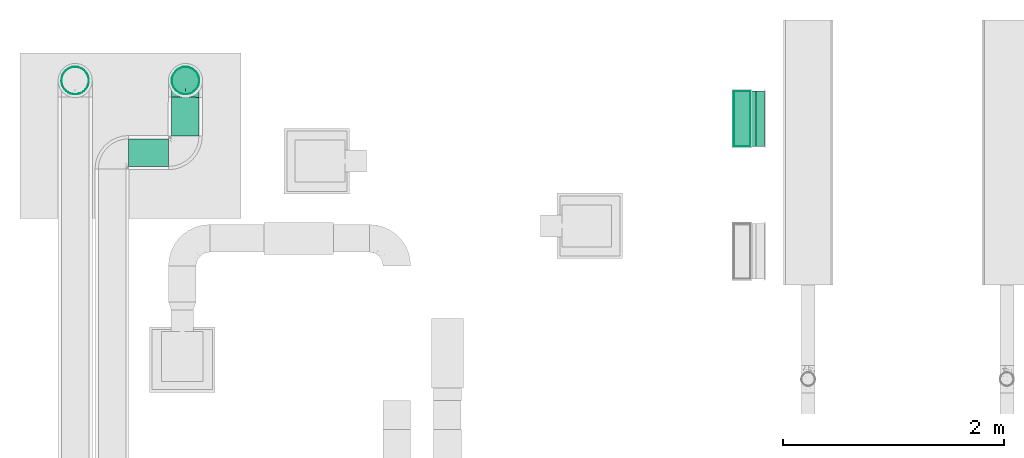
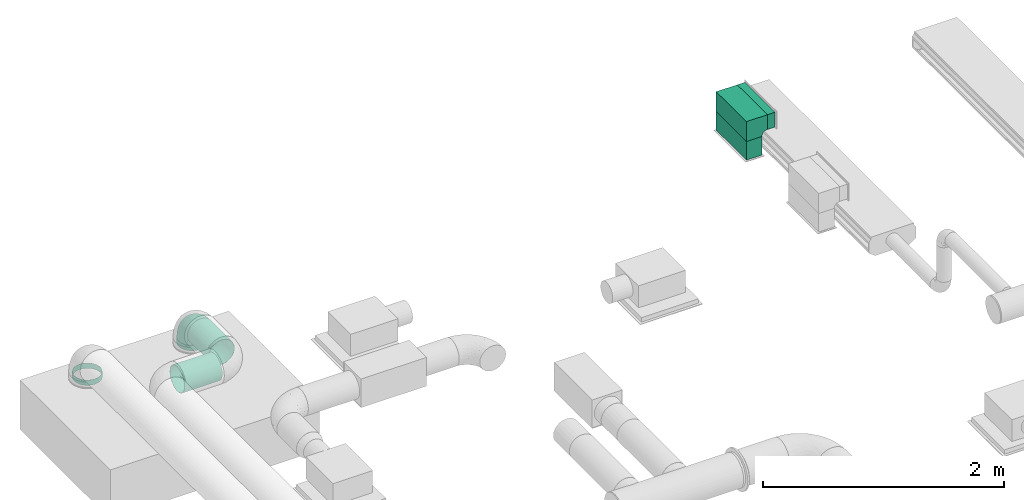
# One storey, part 24 of 36: 6 flow segments, 2 flow fittings.
"""IFC2X3 building model written with IfcOpenShell, lengths in millimetres."""

import ifcopenshell
import ifcopenshell.guid

model = None  # the IFC model being written
_history = None  # IfcOwnerHistory: only IFC2X3 demands one
_inside = {}  # id of a spatial element -> (the spatial element, [elements in it])
_under = {}  # id of a project, library or spatial element -> (it, [spatial elements below it])
_declared = {}  # id of a project -> (the project, [libraries it declares])
_typed = {}  # id of a type object -> (the type object, [elements of that type])
_made_of = {}  # id of a material, layer set ... -> (it, [elements and type objects made of it])


def new_model(schema):
    """Start an empty IFC model of exactly this schema.

    Asked for "IFC4X3", IfcOpenShell would pick the latest addendum, in which some entities
    have other attributes; the version numbers below select the first issue.
    IFC2X3 requires an IfcOwnerHistory on every rooted entity: one is made here for all.
    """
    global model, _history
    if schema == "IFC4X3":
        model = ifcopenshell.file(schema_version=(4, 3, 0, 0))
    else:
        model = ifcopenshell.file(schema=schema)
    _inside.clear()
    _under.clear()
    _declared.clear()
    _typed.clear()
    _made_of.clear()
    _history = None
    if model.schema == "IFC2X3":
        org = make("IfcOrganization", Name="unknown")
        user = make(
            "IfcPersonAndOrganization",
            ThePerson=make("IfcPerson", FamilyName="unknown"),
            TheOrganization=org,
        )
        app = make(
            "IfcApplication",
            ApplicationDeveloper=org,
            Version="unknown",
            ApplicationFullName="unknown",
            ApplicationIdentifier="unknown",
        )
        _history = make(
            "IfcOwnerHistory",
            OwningUser=user,
            OwningApplication=app,
            ChangeAction="ADDED",
            CreationDate=0,
        )
    return model


def make(cls, **values):
    """One entity of the class cls with the attributes given. An attribute that is None is left unset."""
    return model.create_entity(
        cls, **{name: value for name, value in values.items() if value is not None}
    )


def entity(cls, *values):
    """Any entity or typed value of the class cls, its attributes in the order of the schema. None: left unset."""
    e = model.create_entity(cls)
    for i, value in enumerate(values):
        if value is not None:
            e[i] = value
    return e


def rooted(cls, **values):
    """An entity with a GlobalId (a new one), such as an element, a storey or a relation."""
    return make(cls, GlobalId=ifcopenshell.guid.new(), OwnerHistory=_history, **values)


def si_unit(unit_type, name, prefix=None):
    """IfcSIUnit, for example si_unit("LENGTHUNIT", "METRE", prefix="MILLI")."""
    return make("IfcSIUnit", UnitType=unit_type, Prefix=prefix, Name=name)


def converted_unit(unit_type, name, factor, base, dimensions=None, offset=None):
    """IfcConversionBasedUnit, such as the inch: factor (a typed value) times the base unit."""
    return make(
        "IfcConversionBasedUnit"
        if offset is None
        else "IfcConversionBasedUnitWithOffset",
        ConversionOffset=offset,
        Dimensions=None
        if dimensions is None
        else entity("IfcDimensionalExponents", *dimensions),
        UnitType=unit_type,
        Name=name,
        ConversionFactor=make(
            "IfcMeasureWithUnit", ValueComponent=factor, UnitComponent=base
        ),
    )


def derived_unit(unit_type, elements):
    """IfcDerivedUnit: a product of units, each with its exponent."""
    return make(
        "IfcDerivedUnit",
        Elements=[
            make("IfcDerivedUnitElement", Unit=unit, Exponent=power)
            for unit, power in elements
        ],
        UnitType=unit_type,
    )


def assignment(units):
    """IfcUnitAssignment: the units of a project."""
    return None if units is None else make("IfcUnitAssignment", Units=units)


def point(xyz):
    """IfcCartesianPoint."""
    return None if xyz is None else make("IfcCartesianPoint", Coordinates=xyz)


def direction(xyz):
    """IfcDirection."""
    return None if xyz is None else make("IfcDirection", DirectionRatios=xyz)


def frame(location, z_axis=None, x_axis=None):
    """IfcAxis2Placement3D, a coordinate frame: its origin and axes. An axis left out is left unset."""
    return make(
        "IfcAxis2Placement3D",
        Location=point(location),
        Axis=direction(z_axis),
        RefDirection=direction(x_axis),
    )


def frame_2d(location, x_axis=None):
    """IfcAxis2Placement2D, a coordinate frame in the plane: its origin and x axis."""
    return make(
        "IfcAxis2Placement2D", Location=point(location), RefDirection=direction(x_axis)
    )


def origin_with_axes():
    """The frame at (0, 0, 0) with the z axis (0, 0, 1) and the x axis (1, 0, 0) written out."""
    return frame((0.0, 0.0, 0.0), z_axis=(0.0, 0.0, 1.0), x_axis=(1.0, 0.0, 0.0))


def origin_2d_with_axis():
    """The frame at (0, 0) in the plane with the x axis (1, 0) written out."""
    return frame_2d((0.0, 0.0), x_axis=(1.0, 0.0))


def place(relative_to, where):
    """IfcLocalPlacement: puts the frame where relative to a parent placement (None: the world)."""
    return make(
        "IfcLocalPlacement", PlacementRelTo=relative_to, RelativePlacement=where
    )


def context(
    kind, dimensions, precision=None, world=None, true_north=None, identifier=None
):
    """IfcGeometricRepresentationContext, for example the 3D "Model" context."""
    return make(
        "IfcGeometricRepresentationContext",
        ContextIdentifier=identifier,
        ContextType=kind,
        CoordinateSpaceDimension=dimensions,
        Precision=precision,
        WorldCoordinateSystem=world,
        TrueNorth=true_north,
    )


def subcontext(parent, identifier, kind, view, scale=None):
    """IfcGeometricRepresentationSubContext, for example "Body" below "Model"."""
    return make(
        "IfcGeometricRepresentationSubContext",
        ContextIdentifier=identifier,
        ContextType=kind,
        ParentContext=parent,
        TargetScale=scale,
        TargetView=view,
    )


def project(units=None, contexts=None):
    """IfcProject with its units and contexts."""
    return rooted(
        "IfcProject",
        Name="project",
        RepresentationContexts=contexts,
        UnitsInContext=assignment(units),
    )


def spatial(cls, under=None, at=None, **own):
    """A site, building, storey or space (cls), placed at a placement, below another one or the project."""
    s = rooted(cls, ObjectPlacement=at, **own)
    if under is not None:
        _under.setdefault(under.id(), (under, []))[1].append(s)
    return s


def profile(cls, at=None, kind="AREA", **sizes):
    """A parametric profile (cls). Its sizes go by their IFC names, for example OverallWidth=200.0."""
    return make(cls, ProfileType=kind, Position=at, **sizes)


def hollow_rectangle(**sizes):
    """IfcRectangleHollowProfileDef."""
    return profile("IfcRectangleHollowProfileDef", **sizes)


def hollow_circle(**sizes):
    """IfcCircleHollowProfileDef."""
    return profile("IfcCircleHollowProfileDef", **sizes)


def extrude(swept, where, along, depth):
    """IfcExtrudedAreaSolid: the profile swept, set in the frame where, extruded along a direction by depth."""
    return make(
        "IfcExtrudedAreaSolid",
        SweptArea=swept,
        Position=where,
        ExtrudedDirection=direction(along),
        Depth=depth,
    )


def faces_of(points, faces, orient=None, outer=None):
    """IfcFace entities. A face is a list of loops; a loop is a list of indices into points, from 0.

    orient and outer hold one flag for each loop. By default every Orientation is true, the
    first loop of a face is its IfcFaceOuterBound and the others are IfcFaceBound.
    """
    made = []
    for i, loops in enumerate(faces):
        bounds = []
        for j, loop in enumerate(loops):
            is_outer = j == 0 if outer is None else outer[i][j]
            bounds.append(
                make(
                    "IfcFaceOuterBound" if is_outer else "IfcFaceBound",
                    Bound=make("IfcPolyLoop", Polygon=[points[k] for k in loop]),
                    Orientation=True if orient is None else orient[i][j],
                )
            )
        made.append(make("IfcFace", Bounds=bounds))
    return made


def open_shell(faces, orient=None, outer=None):
    """The faces of one IfcOpenShell. surface_model builds it on its shared points."""
    return ("IfcOpenShell", faces, orient, outer)


def surface_model(cls, points, shells):
    """IfcFaceBasedSurfaceModel or IfcShellBasedSurfaceModel (cls): surfaces that need not close."""
    shared = [point(p) for p in points]
    made = [make(c, CfsFaces=faces_of(shared, fs, o, b)) for c, fs, o, b in shells]
    if cls == "IfcFaceBasedSurfaceModel":
        return make(cls, FbsmFaces=made)
    return make(cls, SbsmBoundary=made)


def shape(context_of_items, identifier, shape_type, items):
    """IfcShapeRepresentation: the items that make up one representation, for example the "Body"."""
    return make(
        "IfcShapeRepresentation",
        ContextOfItems=context_of_items,
        RepresentationIdentifier=identifier,
        RepresentationType=shape_type,
        Items=items,
    )


def source(mapping_origin, context_of_items, identifier, shape_type, items):
    """IfcRepresentationMap: a shape defined once, which mapped items show again and again."""
    return make(
        "IfcRepresentationMap",
        MappingOrigin=mapping_origin,
        MappedRepresentation=shape(context_of_items, identifier, shape_type, items),
    )


def transform(
    local_origin,
    x_axis=None,
    y_axis=None,
    z_axis=None,
    scale=None,
    scale2=None,
    scale3=None,
    uniform=True,
):
    """IfcCartesianTransformationOperator3D, or its non-uniform kind. x_axis, y_axis, z_axis: its Axis1, 2, 3."""
    if uniform:
        return make(
            "IfcCartesianTransformationOperator3D",
            Axis1=direction(x_axis),
            Axis2=direction(y_axis),
            LocalOrigin=point(local_origin),
            Scale=scale,
            Axis3=direction(z_axis),
        )
    return make(
        "IfcCartesianTransformationOperator3DnonUniform",
        Axis1=direction(x_axis),
        Axis2=direction(y_axis),
        LocalOrigin=point(local_origin),
        Scale=scale,
        Axis3=direction(z_axis),
        Scale2=scale2,
        Scale3=scale3,
    )


def mapped(mapping_source, mapping_target):
    """IfcMappedItem: shows the shape of a source again, moved by a transform."""
    return make(
        "IfcMappedItem", MappingSource=mapping_source, MappingTarget=mapping_target
    )


def made_of(thing, what):
    """Note that an element or type object is made of a material, layer set ...; save() writes the relation."""
    if what is not None:
        _made_of.setdefault(what.id(), (what, []))[1].append(thing)
    return thing


def type_object(cls, material=None, **own):
    """A type object (cls), such as IfcWallType, which elements share."""
    return made_of(rooted(cls, **own), material)


def element(
    cls,
    number,
    at=None,
    inside=None,
    cuts=None,
    type_object=None,
    material=None,
    context=None,
    identifier="Body",
    shape_type=None,
    held_by="IfcProductDefinitionShape",
    body=None,
    shapes=None,
    **own,
):
    """One element of the class cls, such as IfcWall. Its Tag is "e" and its number.

    at: its placement. inside: the storey or other place that contains it. cuts: it is an
    opening in that element (IfcRelVoidsElement). A single representation is given by context,
    identifier, shape_type and body (its items); several are given by shapes. held_by: the class
    of the entity that holds the representations. save() writes the other relations.
    """
    e = rooted(cls, Tag="e%d" % number, ObjectPlacement=at, **own)
    if body is not None:
        shapes = [shape(context, identifier, shape_type, body)]
    if shapes is not None:
        e.Representation = make(held_by, Representations=shapes)
    if inside is not None:
        _inside.setdefault(inside.id(), (inside, []))[1].append(e)
    if cuts is not None:
        rooted(
            "IfcRelVoidsElement", RelatingBuildingElement=cuts, RelatedOpeningElement=e
        )
    if type_object is not None:
        _typed.setdefault(type_object.id(), (type_object, []))[1].append(e)
    return made_of(e, material)


def aggregate(whole, parts):
    """IfcRelAggregates: a whole, such as a stair, and the parts it consists of."""
    return rooted("IfcRelAggregates", RelatingObject=whole, RelatedObjects=parts)


def save(model, path):
    """Write the relations noted so far, then the file.

    IfcRelAggregates (storeys below a building ...), IfcRelContainedInSpatialStructure (elements
    in a storey), IfcRelDefinesByType, IfcRelAssociatesMaterial and IfcRelDeclares: one each for
    every whole, place, type object, material and project.
    """
    for whole, parts in _under.values():
        aggregate(whole, parts)
    for where, things in _inside.values():
        rooted(
            "IfcRelContainedInSpatialStructure",
            RelatedElements=things,
            RelatingStructure=where,
        )
    for kind, things in _typed.values():
        rooted("IfcRelDefinesByType", RelatedObjects=things, RelatingType=kind)
    for what, things in _made_of.values():
        rooted("IfcRelAssociatesMaterial", RelatedObjects=things, RelatingMaterial=what)
    for by, libraries in _declared.values():
        rooted("IfcRelDeclares", RelatingContext=by, RelatedDefinitions=libraries)
    model.write(path)


model = new_model("IFC2X3")

# Units and contexts
model_context = context("Model", 3, precision=0.01, world=frame((0.0, 4.29681676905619e-09, 0.0)), true_north=direction((4.01073788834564e-13, 1.0)))
plan_context = context("Plan", 3, precision=0.01, world=frame((0.0, 4.29681676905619e-09, 0.0)), true_north=direction((4.01073788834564e-13, 1.0)))
body_context = subcontext(model_context, "Body", "Model", "MODEL_VIEW")
ifc_project = project(units=[converted_unit("PLANEANGLEUNIT", "DEGREE", entity("IfcPositiveLengthMeasure", 0.0174532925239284), si_unit("PLANEANGLEUNIT", "RADIAN"), dimensions=[0, 0, 0, 0, 0, 0, 0]), si_unit("AREAUNIT", "SQUARE_METRE"), si_unit("LENGTHUNIT", "METRE", prefix="MILLI"), si_unit("MASSUNIT", "GRAM", prefix="KILO"), si_unit("POWERUNIT", "WATT"), si_unit("PRESSUREUNIT", "PASCAL"), si_unit("FORCEUNIT", "NEWTON", prefix="KILO"), si_unit("ELECTRICCURRENTUNIT", "AMPERE"), si_unit("THERMODYNAMICTEMPERATUREUNIT", "DEGREE_CELSIUS"), si_unit("TIMEUNIT", "SECOND"), si_unit("VOLUMEUNIT", "CUBIC_METRE"), derived_unit("LINEARVELOCITYUNIT", [(si_unit("LENGTHUNIT", "METRE"), 1), (si_unit("TIMEUNIT", "SECOND"), -1)]), derived_unit("VOLUMETRICFLOWRATEUNIT", [(si_unit("VOLUMEUNIT", "CUBIC_METRE"), 1), (si_unit("TIMEUNIT", "SECOND"), -1)]), derived_unit("THERMALTRANSMITTANCEUNIT", [(si_unit("POWERUNIT", "WATT"), 1), (si_unit("THERMODYNAMICTEMPERATUREUNIT", "KELVIN"), -1), (si_unit("AREAUNIT", "SQUARE_METRE"), -1)])], contexts=[model_context, plan_context])

# Site, building, storey
site_placement = place(None, frame((0.0, -4.29681676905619e-09, 0.0), z_axis=(0.0, 0.0, 1.0), x_axis=(1.0, 0.0, 0.0)))
site = spatial("IfcSite", under=ifc_project, at=site_placement, CompositionType="ELEMENT")
building_placement = place(site_placement, frame((0.0, 4.29681676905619e-09, 0.0), z_axis=(0.0, 0.0, 1.0), x_axis=(1.0, 0.0, 0.0)))
building = spatial("IfcBuilding", under=site, at=building_placement, Name="mc-building", CompositionType="ELEMENT")
storey_placement = place(building_placement, frame((0.0, 0.0, 204000.0), z_axis=(0.0, 0.0, 1.0), x_axis=(1.0, 0.0, 0.0)))
storey = spatial("IfcBuildingStorey", under=building, at=storey_placement, Name="Nivå D", CompositionType="ELEMENT", Elevation=204000.0)

# Flow fittings
duct_fitting_type_1 = type_object("IfcDuctFittingType", Name="WA", PredefinedType="BEND")
shared_shape_1 = source(origin_with_axes(), body_context, "Body", "SurfaceModel", [
    surface_model("IfcShellBasedSurfaceModel", [(-76.70371, 112.05905, 250.0), (-81.69873, 100.0, 250.0), (75.0, 125.0, 250.0), (-75.0, 126.5, 250.0), (75.0, 126.5, 250.0), (-75.0, 125.0, 250.0), (75.0, -75.0, 250.0), (-126.5, 75.0, 250.0), (-126.5, -75.0, 250.0), (-125.0, 75.0, 250.0), (-112.05905, 76.70371, 250.0), (-89.64466, 89.64466, 250.0), (-100.0, 81.69873, 250.0), (-126.5, -75.0, -250.0), (-126.5, 75.0, -250.0), (-125.0, 75.0, -250.0), (-112.05905, 76.70371, -250.0), (-100.0, 81.69873, -250.0), (75.0, -75.0, -250.0), (-89.64466, 89.64466, -250.0), (-81.69873, 100.0, -250.0), (-76.70371, 112.05905, -250.0), (75.0, 125.0, -250.0), (-75.0, 125.0, -250.0), (-75.0, 126.5, -250.0), (75.0, 126.5, -250.0)], [open_shell([[[0, 1, 2]], [[3, 2, 4]], [[2, 3, 5]], [[2, 5, 0]], [[1, 6, 2]], [[7, 8, 9]], [[9, 8, 10]], [[11, 12, 6]], [[8, 12, 10]], [[12, 8, 6]], [[11, 6, 1]], [[13, 14, 15]], [[13, 15, 16]], [[13, 17, 18]], [[17, 13, 16]], [[18, 17, 19]], [[20, 21, 22]], [[20, 22, 18]], [[23, 22, 21]], [[22, 23, 24]], [[24, 25, 22]], [[20, 18, 19]], [[20, 1, 0]], [[23, 0, 5]], [[21, 0, 23]], [[20, 0, 21]], [[20, 19, 1]], [[19, 11, 1]], [[10, 12, 16]], [[9, 10, 15]], [[19, 17, 11]], [[17, 12, 11]], [[16, 12, 17]], [[16, 15, 10]], [[7, 9, 14]], [[15, 14, 9]], [[8, 7, 13]], [[14, 13, 7]], [[6, 8, 13]], [[13, 18, 6]], [[2, 6, 22]], [[18, 22, 6]], [[4, 2, 25]], [[22, 25, 2]], [[3, 4, 24]], [[25, 24, 4]], [[5, 3, 23]], [[24, 23, 3]]])]),
])
flow_fitting_1_placement = place(storey_placement, frame((520619.9495, 420119.06689, 3190.0), z_axis=(0.0, 1.0, 0.0), x_axis=(0.0, 0.0, 1.0)))
element("IfcFlowFitting", 1, at=flow_fitting_1_placement, inside=storey, type_object=duct_fitting_type_1, Name="WA", context=body_context, shape_type="MappedRepresentation", body=[
    mapped(shared_shape_1, transform((0.0, 0.0, 0.0), scale=1.0)),
])
duct_fitting_type_2 = type_object("IfcDuctFittingType", Name="magicirc_elbow_short_001", PredefinedType="BEND")
shared_shape_2 = source(origin_with_axes(), body_context, "Body", "SurfaceModel", [
    surface_model("IfcShellBasedSurfaceModel", [(-150.0, 0.0, -125.0), (-150.0, -32.35238, -120.74073), (-150.0, 32.35238, -120.74073), (-150.0, 62.5, -108.25318), (-150.0, 88.38835, -88.38835), (-150.0, 108.25318, -62.5), (-150.0, 120.74073, -32.35238), (-150.0, -62.5, -108.25318), (-150.0, -88.38835, -88.38835), (-150.0, -125.0, 0.0), (-150.0, -108.25318, -62.5), (-150.0, -120.74073, -32.35238), (-150.0, 125.0, 0.0), (-150.0, -120.74073, 32.35238), (-150.0, 120.74073, 32.35238), (-150.0, 108.25318, 62.5), (-150.0, 32.35238, 120.74073), (-150.0, 62.5, 108.25318), (-150.0, 88.38835, 88.38835), (-150.0, -88.38835, 88.38835), (-150.0, -108.25318, 62.5), (-150.0, -32.35238, 120.74073), (-150.0, 0.0, 125.0), (-150.0, -62.5, 108.25318), (-32.35238, 150.0, -120.74073), (88.38835, 150.0, -88.38835), (0.0, 150.0, -125.0), (-88.38835, 150.0, -88.38835), (-62.5, 150.0, -108.25318), (-108.25318, 150.0, -62.5), (-120.74073, 150.0, -32.35238), (88.38835, 150.0, 88.38835), (32.35238, 150.0, -120.74073), (62.5, 150.0, -108.25318), (120.74073, 150.0, -32.35238), (108.25318, 150.0, -62.5), (125.0, 150.0, 0.0), (-125.0, 150.0, 0.0), (-120.74073, 150.0, 32.35238), (-32.35238, 150.0, 120.74073), (-108.25318, 150.0, 62.5), (-88.38835, 150.0, 88.38835), (-62.5, 150.0, 108.25318), (120.74073, 150.0, 32.35238), (108.25318, 150.0, 62.5), (62.5, 150.0, 108.25318), (0.0, 150.0, 125.0), (32.35238, 150.0, 120.74073), (3.43621, -49.5686, 72.62973), (-18.36868, -48.37229, 88.70337), (-18.83692, -66.65046, 70.44253), (-111.90441, -117.21345, 35.28889), (-118.95041, -121.94188, 0.0), (25.86906, 108.55436, 121.17479), (-75.7772, -90.32158, 72.9261), (-74.87608, -74.03385, 90.43438), (-106.18274, -83.07991, 89.59712), (-96.35016, -119.71595, 0.0), (-46.47779, 70.62109, 123.46212), (-76.11794, 76.11794, 116.41901), (-69.40624, 48.8823, 123.2752), (-124.4932, -102.85852, 69.13391), (61.55426, -23.61809, 0.0), (70.72079, -10.51336, 22.73937), (52.73629, -32.74631, 22.58023), (-124.77817, -54.06971, 111.94259), (-90.65624, -57.4337, 106.30719), (32.14495, -52.26832, 26.33949), (-0.28194, -75.27927, 33.26458), (23.61809, -61.55426, 0.0), (-95.68999, 131.65378, 83.88297), (-69.77814, 120.80048, 106.99559), (-67.0959, -108.40643, 29.86559), (-70.55611, -111.89141, 0.0), (-44.76206, -104.06687, 0.0), (-59.72745, 94.86231, 116.91683), (-108.55438, -25.86905, 121.17479), (54.06971, 124.77816, 111.94259), (-27.02672, -92.24399, 28.66038), (-115.00313, 7.3209, 124.96177), (37.68395, -37.68396, 47.97943), (-29.53309, 7.28525, 119.4722), (-3.39232, -9.52602, 105.74117), (0.96712, 29.12319, 117.22512), (-136.08989, 114.55349, 55.66419), (-123.43379, 95.73566, 87.17875), (-119.07435, 119.07435, 65.82439), (-129.09162, 129.09162, 33.48663), (-137.5, 128.34936, 0.0), (-121.4114, 69.81738, 106.84783), (-150.0, 47.42619, 114.49695), (-128.63564, 33.72653, 120.89263), (-27.58141, -83.17169, 52.68646), (-47.99632, -78.87458, 74.22581), (-54.84475, -96.13379, 51.52422), (103.28598, 90.85645, 59.18699), (90.74371, 74.5558, 71.84785), (96.43496, 48.91625, 45.66343), (-41.1276, 38.26732, 124.85571), (102.85852, 124.4932, 69.13391), (83.07991, 106.18274, 89.59712), (-94.00852, 107.9804, 96.05098), (74.96021, 76.43193, 90.06036), (117.21345, 111.90441, 35.28889), (121.94188, 118.95041, 0.0), (-47.30293, -61.16044, 91.82798), (78.87458, 47.99631, 74.22581), (76.94281, 15.76685, 52.00246), (-101.88517, 84.02177, 104.66367), (110.18665, 71.48082, 28.20521), (111.89141, 70.55611, 0.0), (55.40218, 7.25052, 74.8198), (24.63024, -24.60151, 78.91029), (58.21029, -16.89277, 44.41752), (57.4337, 90.65623, 106.30718), (30.02154, 57.30162, 113.4468), (-128.34936, 137.5, 0.0), (-73.97464, 6.61086, 124.39367), (-33.52256, 127.66016, 120.99202), (-7.19958, 114.11429, 124.96953), (-18.42999, 93.20127, 124.82066), (14.9991, 81.71173, 121.69074), (-109.70554, 132.7303, 65.99174), (-81.52168, -16.35182, 121.37252), (-56.488, -29.68334, 113.41267), (55.20354, 44.94313, 95.60044), (-90.85645, -103.28598, 59.18699), (-26.43187, -29.68413, 104.83883), (-7.20961, 68.77767, 124.18226), (30.67747, 15.69438, 99.90432), (-47.42619, 150.0, 114.49695), (-107.88822, 38.92177, 121.04182), (-96.15013, 61.71268, 115.9946), (-96.31285, 19.15333, 124.70605), (14.59493, -56.28029, 51.4962), (104.06687, 44.76206, 0.0), (102.01943, 45.4582, 23.12647), (89.00824, 19.09141, 24.82271), (119.71595, 96.35016, 0.0), (-20.99012, -91.36051, 0.0), (78.65415, -2.78181, 0.0), (91.36051, 20.99012, 0.0), (2.78181, -78.65415, 0.0), (44.45436, -44.45436, 0.0), (-38.84807, 105.96939, 121.23578), (-120.80048, 69.77814, -106.99559), (54.06971, 124.77816, -111.94259), (-90.65624, -57.4337, -106.30719), (-124.77817, -54.06971, -111.94259), (-108.55438, -25.86906, -121.17479), (-18.36869, -48.37229, -88.70338), (-18.83692, -66.65046, -70.44253), (-47.30293, -61.16045, -91.82798), (-96.31285, 19.15333, -124.70605), (-73.97463, 6.61086, -124.39367), (-115.00313, 7.3209, -124.96177), (14.9991, 81.71175, -121.69074), (25.86906, 108.55438, -121.17479), (30.02154, 57.30164, -113.44681), (-129.09162, 129.09162, -33.48663), (-95.73566, 123.43379, -87.17875), (-84.02176, 101.88516, -104.66368), (-107.9804, 94.00852, -96.05098), (-0.28194, -75.27927, -33.26458), (-131.65378, 95.68999, -83.88297), (-132.7303, 109.70554, -65.99174), (-107.88822, 38.92177, -121.04182), (-128.63564, 33.72653, -120.89263), (-119.07435, 119.07435, -65.82439), (-111.90441, -117.21345, -35.28889), (-76.11794, 76.11793, -116.41901), (-69.69403, 48.67006, -123.27304), (-95.38125, 59.83873, -116.77822), (-106.18274, -83.07991, -89.59712), (-3.39231, -9.52602, -105.74117), (24.63023, -24.60151, -78.91029), (-54.84475, -96.13379, -51.52422), (-75.7772, -90.32158, -72.9261), (-47.99632, -78.87458, -74.22581), (-124.4932, -102.85852, -69.13391), (30.67749, 15.69438, -99.9043), (0.96713, 29.12319, -117.22511), (-69.81738, 121.4114, -106.84784), (-27.02672, -92.24399, -28.66038), (-67.0959, -108.40643, -29.86559), (78.87458, 47.99631, -74.22581), (96.43495, 48.9163, -45.66349), (76.94285, 15.76686, -52.00241), (37.68395, -37.68396, -47.97943), (58.21029, -16.89277, -44.41752), (52.73629, -32.74631, -22.58023), (-48.07357, 68.7261, -123.44788), (-114.55349, 136.08989, -55.66419), (117.21345, 111.90441, -35.28889), (-7.19958, 114.11428, -124.96953), (-27.58141, -83.17169, -52.68646), (-47.42619, 150.0, -114.49695), (-33.52256, 127.66015, -120.99202), (32.14495, -52.26832, -26.33949), (14.59493, -56.28029, -51.4962), (83.07991, 106.18274, -89.59712), (102.85852, 124.4932, -69.13391), (89.00829, 19.0915, -24.82265), (70.72079, -10.51336, -22.73937), (57.4337, 90.65623, -106.30719), (110.18664, 71.4808, -28.20522), (102.0194, 45.45816, -23.12649), (-90.85645, -103.28598, -59.18699), (90.01217, 76.65037, -73.68876), (73.67235, 74.27652, -90.57836), (-29.53307, 7.28526, -119.4722), (-56.488, -29.68334, -113.41267), (-74.87608, -74.03385, -90.43438), (-81.52167, -16.35182, -121.37252), (-26.43187, -29.68413, -104.83883), (103.28598, 90.85645, -59.18699), (-18.42999, 93.20126, -124.82066), (-38.84807, 105.96939, -121.23578), (55.20355, 44.94317, -95.60045), (-150.0, 47.42619, -114.49695), (55.40223, 7.25057, -74.81978), (-61.71268, 96.15012, -115.9946), (-41.12759, 38.26731, -124.85571), (3.43621, -49.56858, -72.62973), (-7.2096, 68.77766, -124.18226)], [open_shell([[[0, 1, 2]], [[3, 2, 4]], [[1, 5, 2]], [[4, 2, 5]], [[5, 1, 6]], [[7, 8, 1]], [[9, 1, 8]], [[10, 11, 8]], [[9, 8, 11]], [[9, 6, 1]], [[9, 12, 6]], [[12, 13, 14]], [[15, 14, 16]], [[16, 17, 18]], [[15, 16, 18]], [[16, 14, 19]], [[20, 19, 13]], [[19, 14, 13]], [[21, 22, 23]], [[19, 23, 22]], [[19, 22, 16]], [[9, 13, 12]], [[24, 25, 26]], [[27, 24, 28]], [[29, 30, 24]], [[29, 24, 27]], [[24, 31, 25]], [[32, 25, 33]], [[32, 26, 25]], [[25, 34, 35]], [[34, 25, 36]], [[25, 31, 36]], [[24, 30, 37]], [[38, 31, 37]], [[39, 38, 40]], [[41, 42, 39]], [[41, 39, 40]], [[31, 38, 39]], [[43, 31, 44]], [[36, 31, 43]], [[45, 46, 47]], [[46, 45, 31]], [[39, 46, 31]], [[31, 24, 37]], [[48, 49, 50]], [[51, 13, 52]], [[53, 47, 46]], [[54, 55, 56]], [[52, 57, 51]], [[58, 59, 60]], [[20, 61, 19]], [[62, 63, 64]], [[65, 56, 66]], [[67, 68, 69]], [[41, 70, 71]], [[72, 73, 74]], [[59, 58, 75]], [[21, 76, 22]], [[77, 45, 47]], [[23, 19, 56]], [[72, 74, 78]], [[79, 16, 22]], [[76, 21, 65]], [[80, 67, 64]], [[81, 82, 83]], [[84, 85, 86]], [[87, 12, 14]], [[12, 87, 88]], [[18, 17, 89]], [[51, 20, 13]], [[18, 89, 85]], [[17, 90, 91]], [[84, 14, 15]], [[91, 90, 16]], [[92, 93, 94]], [[40, 70, 41]], [[95, 96, 97]], [[83, 98, 81]], [[44, 31, 99]], [[100, 31, 45]], [[86, 85, 101]], [[102, 96, 100]], [[103, 104, 43]], [[66, 55, 105]], [[77, 100, 45]], [[103, 43, 44]], [[97, 106, 107]], [[85, 15, 18]], [[108, 85, 89]], [[85, 84, 15]], [[103, 109, 110]], [[111, 112, 113]], [[114, 53, 115]], [[88, 87, 116]], [[60, 117, 98]], [[116, 87, 37]], [[85, 108, 101]], [[38, 37, 87]], [[71, 118, 42]], [[119, 120, 121]], [[122, 38, 87]], [[70, 122, 101]], [[123, 76, 124]], [[114, 115, 125]], [[119, 53, 46]], [[42, 41, 71]], [[77, 53, 114]], [[72, 78, 94]], [[54, 126, 94]], [[21, 23, 65]], [[124, 76, 66]], [[61, 56, 19]], [[76, 123, 79]], [[93, 105, 55]], [[124, 127, 81]], [[102, 100, 114]], [[99, 100, 95]], [[46, 39, 119]], [[115, 121, 128]], [[128, 83, 115]], [[115, 83, 129]], [[75, 101, 59]], [[118, 39, 130]], [[106, 111, 107]], [[125, 111, 106]], [[131, 89, 17]], [[108, 132, 59]], [[118, 119, 39]], [[119, 118, 120]], [[51, 57, 73]], [[61, 51, 126]], [[99, 103, 44]], [[109, 95, 97]], [[76, 79, 22]], [[133, 79, 117]], [[83, 128, 98]], [[129, 83, 82]], [[128, 120, 58]], [[59, 132, 60]], [[129, 82, 112]], [[125, 115, 129]], [[49, 112, 82]], [[80, 134, 67]], [[127, 49, 82]], [[93, 92, 50]], [[111, 125, 129]], [[125, 106, 102]], [[112, 111, 129]], [[111, 113, 107]], [[98, 117, 81]], [[124, 81, 117]], [[63, 113, 64]], [[135, 109, 136]], [[137, 97, 107]], [[97, 136, 109]], [[110, 138, 103]], [[103, 95, 109]], [[78, 74, 139]], [[73, 72, 51]], [[51, 72, 126]], [[68, 134, 50]], [[72, 94, 126]], [[92, 94, 78]], [[54, 94, 93]], [[63, 107, 113]], [[137, 140, 141]], [[68, 92, 78]], [[50, 49, 105]], [[78, 142, 68]], [[68, 142, 69]], [[67, 69, 143]], [[64, 67, 143]], [[68, 67, 134]], [[68, 50, 92]], [[48, 50, 134]], [[80, 48, 134]], [[112, 49, 48]], [[62, 140, 63]], [[80, 64, 113]], [[140, 137, 63]], [[107, 63, 137]], [[64, 143, 62]], [[113, 112, 80]], [[48, 80, 112]], [[55, 54, 93]], [[56, 126, 54]], [[93, 50, 105]], [[56, 55, 66]], [[127, 105, 49]], [[66, 105, 124]], [[132, 108, 89]], [[101, 108, 59]], [[89, 131, 132]], [[60, 98, 58]], [[132, 131, 60]], [[60, 131, 133]], [[128, 58, 98]], [[75, 58, 144]], [[144, 71, 75]], [[101, 75, 71]], [[122, 70, 40]], [[136, 141, 135]], [[71, 70, 101]], [[38, 122, 40]], [[101, 122, 86]], [[84, 87, 14]], [[122, 87, 86]], [[13, 9, 52]], [[104, 103, 138]], [[104, 36, 43]], [[87, 84, 86]], [[51, 61, 20]], [[56, 61, 126]], [[56, 65, 23]], [[76, 65, 66]], [[100, 99, 31]], [[103, 99, 95]], [[53, 77, 47]], [[100, 77, 114]], [[118, 71, 144]], [[120, 118, 144]], [[42, 118, 130]], [[79, 133, 91]], [[79, 91, 16]], [[17, 91, 131]], [[124, 117, 123]], [[79, 123, 117]], [[125, 102, 114]], [[96, 102, 106]], [[97, 96, 106]], [[100, 96, 95]], [[115, 53, 121]], [[119, 121, 53]], [[58, 120, 144]], [[121, 120, 128]], [[60, 133, 117]], [[91, 133, 131]], [[81, 127, 82]], [[105, 127, 124]], [[97, 137, 136]], [[141, 136, 137]], [[109, 135, 110]], [[139, 142, 78]], [[4, 145, 3]], [[32, 33, 146]], [[147, 148, 149]], [[150, 151, 152]], [[153, 154, 155]], [[156, 157, 158]], [[88, 159, 12]], [[160, 161, 162]], [[159, 6, 12]], [[142, 163, 69]], [[162, 164, 165]], [[3, 166, 167]], [[168, 160, 162]], [[159, 165, 6]], [[10, 169, 11]], [[169, 52, 11]], [[170, 171, 172]], [[7, 148, 173]], [[174, 175, 150]], [[176, 177, 178]], [[149, 1, 0]], [[34, 36, 104]], [[10, 8, 179]], [[180, 174, 181]], [[161, 160, 182]], [[183, 74, 184]], [[8, 7, 173]], [[185, 186, 187]], [[188, 189, 190]], [[159, 88, 116]], [[155, 149, 0]], [[37, 30, 159]], [[171, 170, 191]], [[192, 30, 29]], [[193, 35, 34]], [[4, 164, 145]], [[192, 160, 168]], [[24, 26, 194]], [[148, 7, 1]], [[155, 0, 2]], [[157, 194, 26]], [[163, 183, 195]], [[196, 24, 197]], [[198, 163, 199]], [[182, 160, 27]], [[160, 29, 27]], [[200, 33, 25]], [[35, 201, 25]], [[187, 186, 202]], [[203, 62, 190]], [[32, 146, 157]], [[200, 204, 146]], [[205, 135, 206]], [[184, 169, 207]], [[104, 138, 193]], [[34, 104, 193]], [[27, 28, 182]], [[183, 142, 139]], [[32, 157, 26]], [[200, 208, 209]], [[210, 181, 174]], [[147, 149, 211]], [[177, 212, 178]], [[37, 159, 116]], [[179, 173, 207]], [[5, 164, 4]], [[211, 213, 154]], [[210, 211, 154]], [[214, 174, 150]], [[201, 200, 25]], [[208, 200, 215]], [[158, 157, 204]], [[216, 217, 197]], [[204, 209, 218]], [[172, 162, 170]], [[167, 2, 219]], [[180, 175, 174]], [[187, 189, 220]], [[182, 28, 197]], [[161, 221, 170]], [[194, 157, 156]], [[28, 196, 197]], [[179, 169, 10]], [[169, 73, 57]], [[193, 110, 205]], [[201, 193, 215]], [[2, 167, 155]], [[155, 154, 213]], [[180, 181, 158]], [[181, 210, 222]], [[154, 153, 171]], [[170, 221, 191]], [[158, 218, 180]], [[180, 218, 220]], [[175, 180, 220]], [[195, 178, 151]], [[151, 223, 199]], [[212, 152, 178]], [[204, 218, 158]], [[185, 187, 220]], [[185, 220, 218]], [[175, 220, 189]], [[210, 174, 214]], [[154, 222, 210]], [[208, 186, 185]], [[187, 202, 203]], [[205, 186, 215]], [[206, 141, 202]], [[215, 193, 205]], [[169, 184, 73]], [[74, 73, 184]], [[184, 176, 183]], [[176, 184, 207]], [[183, 176, 195]], [[177, 176, 207]], [[195, 176, 178]], [[206, 186, 205]], [[207, 173, 177]], [[178, 152, 151]], [[195, 151, 163]], [[69, 163, 198]], [[142, 183, 163]], [[69, 198, 143]], [[188, 198, 199]], [[190, 143, 198]], [[223, 151, 150]], [[163, 151, 199]], [[150, 175, 223]], [[188, 223, 175]], [[223, 188, 199]], [[175, 189, 188]], [[188, 190, 198]], [[190, 189, 203]], [[187, 203, 189]], [[202, 140, 203]], [[62, 203, 140]], [[62, 143, 190]], [[212, 173, 147]], [[173, 212, 177]], [[147, 211, 152]], [[147, 152, 212]], [[214, 152, 211]], [[221, 161, 182]], [[162, 161, 170]], [[182, 217, 221]], [[191, 222, 171]], [[221, 217, 191]], [[191, 217, 216]], [[154, 171, 222]], [[172, 166, 145]], [[166, 172, 171]], [[162, 172, 145]], [[165, 164, 5]], [[141, 140, 202]], [[145, 164, 162]], [[6, 165, 5]], [[162, 165, 168]], [[192, 159, 30]], [[165, 159, 168]], [[52, 169, 57]], [[52, 9, 11]], [[160, 192, 29]], [[159, 192, 168]], [[173, 179, 8]], [[169, 179, 207]], [[149, 148, 1]], [[173, 148, 147]], [[193, 201, 35]], [[200, 201, 215]], [[200, 146, 33]], [[157, 146, 204]], [[217, 182, 197]], [[24, 194, 197]], [[216, 197, 194]], [[166, 3, 145]], [[3, 167, 219]], [[167, 166, 153]], [[211, 149, 213]], [[155, 213, 149]], [[186, 208, 215]], [[209, 208, 185]], [[218, 209, 185]], [[200, 209, 204]], [[156, 216, 194]], [[167, 153, 155]], [[171, 153, 166]], [[152, 214, 150]], [[210, 214, 211]], [[141, 206, 135]], [[202, 186, 206]], [[110, 193, 138]], [[110, 135, 205]], [[74, 183, 139]], [[191, 224, 222]], [[181, 222, 224]], [[181, 224, 158]], [[158, 224, 156]], [[156, 224, 216]], [[191, 216, 224]]])]),
])
flow_fitting_2_placement = place(storey_placement, frame((515577.5, 420465.19145, 2614.0), z_axis=(0.999938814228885, -0.0110619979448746, 0.0), x_axis=(0.0, 0.0, 1.0)))
element("IfcFlowFitting", 2, at=flow_fitting_2_placement, inside=storey, type_object=duct_fitting_type_2, Name="magicirc_elbow_short_001", context=body_context, shape_type="MappedRepresentation", body=[
    mapped(shared_shape_2, transform((0.0, 0.0, 0.0), scale=1.0)),
])

# Flow segments
duct_segment_type_1 = type_object("IfcDuctSegmentType", Name="KK002T - Rektangulære, Forsinket stål", PredefinedType="RIGIDSEGMENT")
shared_shape_3 = source(origin_with_axes(), body_context, "Body", "SweptSolid", [
    extrude(hollow_rectangle(XDim=500.0, YDim=150.0, WallThickness=2.0, at=origin_2d_with_axis()), frame((0.0, 0.0, 0.0), z_axis=(1.0, 0.0, 0.0), x_axis=(0.0, 1.0, 0.0)), (0.0, 0.0, 1.0), 188.4),
])
flow_segment_1_placement = place(storey_placement, frame((520619.9495, 420119.06689, 2875.05682999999), z_axis=(-1.0, 0.0, 0.0), x_axis=(0.0, 0.0, 1.0)))
element("IfcFlowSegment", 3, at=flow_segment_1_placement, inside=storey, type_object=duct_segment_type_1, Name="KK002T - Rektangulære, Forsinket stål", context=body_context, shape_type="MappedRepresentation", body=[
    mapped(shared_shape_3, transform((0.0, 0.0, 0.0), scale=1.0)),
])
shared_shape_4 = source(origin_with_axes(), body_context, "Body", "SweptSolid", [
    extrude(hollow_rectangle(XDim=500.0, YDim=150.0, WallThickness=2.0, at=origin_2d_with_axis()), frame((0.0, 0.0, 0.0), z_axis=(1.0, 0.0, 0.0), x_axis=(0.0, 1.0, 0.0)), (0.0, 0.0, 1.0), 73.5),
])
flow_segment_2_placement = place(storey_placement, frame((520746.4495, 420119.06689, 3190.0), z_axis=(0.0, 0.0, 1.0), x_axis=(1.0, 0.0, 0.0)))
element("IfcFlowSegment", 4, at=flow_segment_2_placement, inside=storey, type_object=duct_segment_type_1, Name="KK002T - Rektangulære, Forsinket stål", context=body_context, shape_type="MappedRepresentation", body=[
    mapped(shared_shape_4, transform((0.0, 0.0, 0.0), scale=1.0)),
])
duct_segment_type_2 = type_object("IfcDuctSegmentType", Name="KK002T - Spiro kanaler, Forsinket stål, korte bend", PredefinedType="RIGIDSEGMENT")
shared_shape_5 = source(origin_with_axes(), body_context, "Body", "SweptSolid", [
    extrude(hollow_circle(Radius=125.0, WallThickness=2.0, at=origin_2d_with_axis()), frame((0.0, 0.0, 0.0), z_axis=(1.0, 0.0, 0.0), x_axis=(0.0, 1.0, 0.0)), (0.0, 0.0, 1.0), 361.4),
])
flow_segment_3_placement = place(storey_placement, frame((515062.18938, 419812.77189, 2614.0), z_axis=(0.0, 0.0, 1.0), x_axis=(1.0, 0.0, 0.0)))
element("IfcFlowSegment", 5, at=flow_segment_3_placement, inside=storey, type_object=duct_segment_type_2, Name="KK002T - Spiro kanaler, Forsinket stål, korte bend", context=body_context, shape_type="MappedRepresentation", body=[
    mapped(shared_shape_5, transform((0.0, 0.0, 0.0), scale=1.0)),
])
shared_shape_6 = source(origin_with_axes(), body_context, "Body", "SweptSolid", [
    extrude(hollow_circle(Radius=125.0, WallThickness=2.0, at=origin_2d_with_axis()), frame((0.0, 0.0, 0.0), z_axis=(1.0, 0.0, 0.0), x_axis=(0.0, 1.0, 0.0)), (0.0, 0.0, 1.0), 54.0),
])
for number, where, z_axis, x_axis in (
    (6, (515577.5, 420465.19145, 2410.0), (0.0, -1.0, 0.0), (0.0, 0.0, 1.0)),
    (7, (514577.5, 420465.19145, 2410.0), (0.0, 1.0, 0.0), (0.0, 0.0, 1.0)),
):
    element("IfcFlowSegment", number, at=place(storey_placement, frame(where, z_axis=z_axis, x_axis=x_axis)), inside=storey, type_object=duct_segment_type_2, Name="KK002T - Spiro kanaler, Forsinket stål, korte bend", context=body_context, shape_type="MappedRepresentation", body=[
        mapped(shared_shape_6, transform((0.0, 0.0, 0.0), scale=1.0)),
    ])
shared_shape_7 = source(origin_with_axes(), body_context, "Body", "SweptSolid", [
    extrude(hollow_circle(Radius=125.0, WallThickness=2.0, at=origin_2d_with_axis()), frame((0.0, 0.0, 0.0), z_axis=(1.0, 0.0, 0.0), x_axis=(0.0, 1.0, 0.0)), (0.0, 0.0, 1.0), 352.4),
])
flow_segment_4_placement = place(storey_placement, frame((515573.60115, 419962.77189, 2614.0), z_axis=(0.0, 0.0, 1.0), x_axis=(0.0063539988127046, 0.99997981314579, 0.0)))
element("IfcFlowSegment", 8, at=flow_segment_4_placement, inside=storey, type_object=duct_segment_type_2, Name="KK002T - Spiro kanaler, Forsinket stål, korte bend", context=body_context, shape_type="MappedRepresentation", body=[
    mapped(shared_shape_7, transform((0.0, 0.0, 0.0), scale=1.0)),
])

save(model, "model.ifc")
